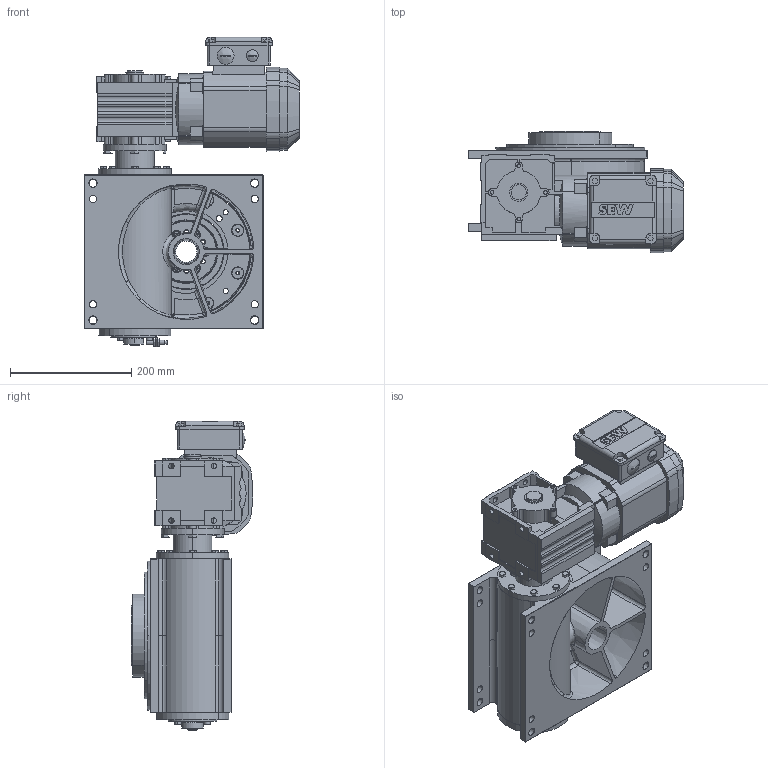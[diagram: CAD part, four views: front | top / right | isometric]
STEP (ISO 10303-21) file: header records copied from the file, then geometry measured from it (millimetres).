
FILE_DESCRIPTION (( 'STEP AP214' ), '1' );
FILE_NAME ('M210_SEW_WA30DRS71S6_D1_08.STEP', '2020-06-17T04:13:30', ( '' ), ( '' ), 'SwSTEP 2.0', 'SolidWorks 2020', '' );
FILE_SCHEMA (( 'AUTOMOTIVE_DESIGN' ));
Length unit declared in the file: millimetre
Products named in the file (1): M210_SEW_WA30DRS71S6_D1_08
Bounding box: 355 x 200.14 x 511 mm (x, y, z)
Surface area: 808457 mm2 (no closed solid volume)
Topology: 0 solids, 92 shells, 1395 faces, 4202 edges, 2812 vertices
Faces by surface type: plane 608, cylinder 406, cone 216, bspline 110, torus 55
Entity records: 70503 total; most frequent: CARTESIAN_POINT 18052, DIRECTION 7774, ORIENTED_EDGE 7138, EDGE_CURVE 4165, AXIS2_PLACEMENT_3D 2837, VERTEX_POINT 2812, LINE 2100, VECTOR 2100
